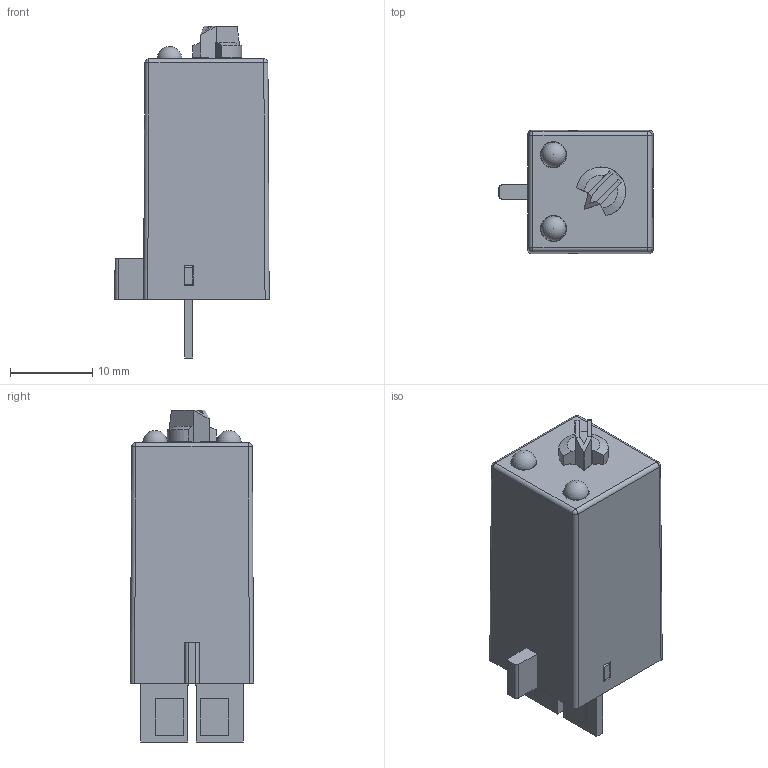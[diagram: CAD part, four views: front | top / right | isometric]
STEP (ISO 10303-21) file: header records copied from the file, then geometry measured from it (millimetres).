
FILE_DESCRIPTION(('STEP AP214'), '1');
FILE_NAME('Ìîäóëü âûäåðæêè âðåìåíè Ì30-Â (íà ïîêàç)', '', ('UNSPECIFIED'), ('UNSPECIFIED'), 'ASCON STEP Converter 1.6', 'ASCON Math Kernel', '');
FILE_SCHEMA(('AUTOMOTIVE_DESIGN { 1 0 10303 214 3 1 1}'));
Length unit declared in the file: millimetre
Bounding box: 18.8 x 15 x 40.45 mm (x, y, z)
Volume: 2252.7 mm3; surface area: 5097.4 mm2
Topology: 2 solids, 2 shells, 239 faces, 624 edges, 402 vertices
Faces by surface type: plane 176, cylinder 51, bspline 8, cone 2, sphere 2
Full cylindrical faces by diameter (mm): 0.3 x4, 3 x3, 3.2 x3
Entity records: 9683 total; most frequent: CARTESIAN_POINT 1942, ORIENTED_EDGE 1212, DIRECTION 1132, EDGE_CURVE 606, LINE 476, VECTOR 476, VERTEX_POINT 400, AXIS2_PLACEMENT_3D 328
